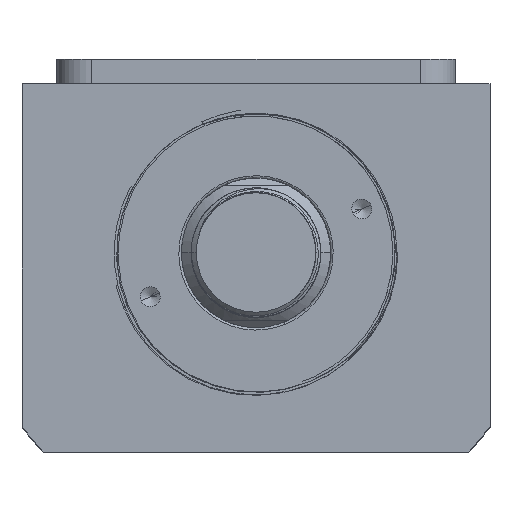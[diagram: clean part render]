
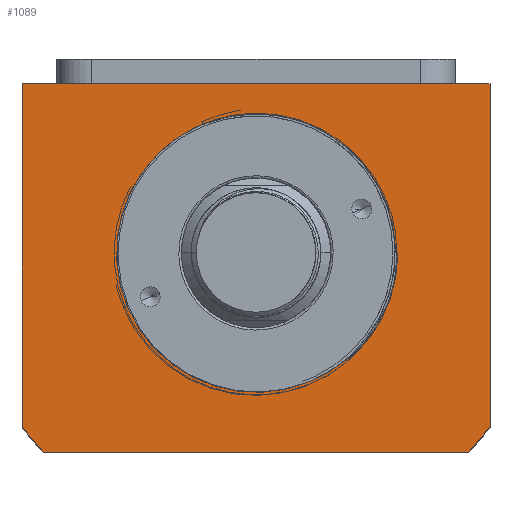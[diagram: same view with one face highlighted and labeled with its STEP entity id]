
A CAD part, top view. The second image highlights one B-rep face of the part: STEP entity #1089.
In plain terms, the highlighted planar face has unit normal (0, 0, 1).
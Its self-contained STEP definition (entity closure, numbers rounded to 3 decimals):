
#167 = CARTESIAN_POINT ( 'NONE',  ( 0., 0., 50. ) ) ;
#592 = DIRECTION ( 'NONE',  ( 1., 0., 0. ) ) ;
#817 = CARTESIAN_POINT ( 'NONE',  ( 18.667, -21.077, 50. ) ) ;
#869 = EDGE_CURVE ( 'NONE', #3445, #1991, #9956, .T. ) ;
#882 = CARTESIAN_POINT ( 'NONE',  ( 27.555, -6.99, 50. ) ) ;
#914 = AXIS2_PLACEMENT_3D ( 'NONE', #18875, #11363, #2368 ) ;
#1089 = ADVANCED_FACE ( 'NONE', ( #2450, #8316 ), #3809, .T. ) ;
#1202 = VERTEX_POINT ( 'NONE', #5716 ) ;
#1319 = ORIENTED_EDGE ( 'NONE', *, *, #12318, .T. ) ;
#1760 = CARTESIAN_POINT ( 'NONE',  ( -47., 34., 50. ) ) ;
#1906 = ORIENTED_EDGE ( 'NONE', *, *, #7147, .T. ) ;
#1991 = VERTEX_POINT ( 'NONE', #2170 ) ;
#2128 = ORIENTED_EDGE ( 'NONE', *, *, #10598, .T. ) ;
#2170 = CARTESIAN_POINT ( 'NONE',  ( 28., 0., 50. ) ) ;
#2238 = CARTESIAN_POINT ( 'NONE',  ( 11.542, -25.544, 50. ) ) ;
#2368 = DIRECTION ( 'NONE',  ( 1., 0., 0. ) ) ;
#2450 = FACE_BOUND ( 'NONE', #4644, .T. ) ;
#2899 = LINE ( 'NONE', #3871, #6878 ) ;
#3195 = ORIENTED_EDGE ( 'NONE', *, *, #16500, .T. ) ;
#3328 = VERTEX_POINT ( 'NONE', #1760 ) ;
#3445 = VERTEX_POINT ( 'NONE', #10665 ) ;
#3741 = CARTESIAN_POINT ( 'NONE',  ( 0., 0., 50. ) ) ;
#3743 = CARTESIAN_POINT ( 'NONE',  ( 16.467, -22.819, 50. ) ) ;
#3809 = PLANE ( 'NONE',  #914 ) ;
#3871 = CARTESIAN_POINT ( 'NONE',  ( -47., -34.832, 50. ) ) ;
#3877 = CARTESIAN_POINT ( 'NONE',  ( 28.323, -2.832, 50. ) ) ;
#4000 = VECTOR ( 'NONE', #592, 1000. ) ;
#4181 = CARTESIAN_POINT ( 'NONE',  ( 10.232, -26.064, 50. ) ) ;
#4203 = VERTEX_POINT ( 'NONE', #11423 ) ;
#4457 = AXIS2_PLACEMENT_3D ( 'NONE', #8239, #8164, #9691 ) ;
#4644 = EDGE_LOOP ( 'NONE', ( #8315, #14085, #2128 ) ) ;
#4757 = ORIENTED_EDGE ( 'NONE', *, *, #6388, .T. ) ;
#5396 = CARTESIAN_POINT ( 'NONE',  ( 27.887, -5.628, 50. ) ) ;
#5463 = CARTESIAN_POINT ( 'NONE',  ( 21.684, -18.094, 50. ) ) ;
#5716 = CARTESIAN_POINT ( 'NONE',  ( 47., -34.832, 50. ) ) ;
#5849 = DIRECTION ( 'NONE',  ( 0., -1., 0. ) ) ;
#6246 = VERTEX_POINT ( 'NONE', #12439 ) ;
#6282 = EDGE_CURVE ( 'NONE', #17596, #15430, #16033, .T. ) ;
#6388 = EDGE_CURVE ( 'NONE', #15430, #6246, #10794, .T. ) ;
#6693 = CARTESIAN_POINT ( 'NONE',  ( 26.163, -10.961, 50. ) ) ;
#6772 = ORIENTED_EDGE ( 'NONE', *, *, #6282, .T. ) ;
#6790 = VECTOR ( 'NONE', #12980, 1000. ) ;
#6878 = VECTOR ( 'NONE', #5849, 1000. ) ;
#6891 = CARTESIAN_POINT ( 'NONE',  ( 28.233, -3.538, 50. ) ) ;
#7147 = EDGE_CURVE ( 'NONE', #1202, #4203, #9366, .T. ) ;
#7408 = LINE ( 'NONE', #17063, #14953 ) ;
#7994 = DIRECTION ( 'NONE',  ( -1., 0., 0. ) ) ;
#8089 = DIRECTION ( 'NONE',  ( 0., 0., 1. ) ) ;
#8164 = DIRECTION ( 'NONE',  ( 0., 0., -1. ) ) ;
#8185 = CARTESIAN_POINT ( 'NONE',  ( 24.898, -13.504, 50. ) ) ;
#8239 = CARTESIAN_POINT ( 'NONE',  ( 0., 0., 50. ) ) ;
#8315 = ORIENTED_EDGE ( 'NONE', *, *, #869, .F. ) ;
#8316 = FACE_OUTER_BOUND ( 'NONE', #16143, .T. ) ;
#8764 = B_SPLINE_CURVE_WITH_KNOTS ( 'NONE', 3,
 ( #9647, #12654, #15742, #3877, #6891, #5396, #882, #17267, #6693, #8185, #18744, #9711, #5463, #12993, #17522, #817, #12928, #3743, #11227, #15944, #9833, #2238, #14394, #14260 ),
 .UNSPECIFIED., .F., .F.,
 ( 4, 2, 2, 2, 2, 2, 2, 2, 2, 2, 2, 4 ),
 ( 0., 0.002, 0.004, 0.009, 0.013, 0.017, 0.021, 0.023, 0.026, 0.03, 0.032, 0.034 ),
 .UNSPECIFIED. ) ;
#9366 = LINE ( 'NONE', #13190, #6790 ) ;
#9505 = ORIENTED_EDGE ( 'NONE', *, *, #17719, .T. ) ;
#9647 = CARTESIAN_POINT ( 'NONE',  ( 28.495, 0., 50. ) ) ;
#9691 = DIRECTION ( 'NONE',  ( 1., 0., 0. ) ) ;
#9711 = CARTESIAN_POINT ( 'NONE',  ( 22.571, -17.007, 50. ) ) ;
#9833 = CARTESIAN_POINT ( 'NONE',  ( 12.831, -24.945, 50. ) ) ;
#9956 = LINE ( 'NONE', #3741, #10891 ) ;
#10523 = AXIS2_PLACEMENT_3D ( 'NONE', #15644, #8089, #15371 ) ;
#10598 = EDGE_CURVE ( 'NONE', #14500, #1991, #12077, .T. ) ;
#10631 = DIRECTION ( 'NONE',  ( 0., 0., 1. ) ) ;
#10665 = CARTESIAN_POINT ( 'NONE',  ( 28.495, 0., 50. ) ) ;
#10794 = LINE ( 'NONE', #17095, #4000 ) ;
#10891 = VECTOR ( 'NONE', #17124, 1000. ) ;
#11227 = CARTESIAN_POINT ( 'NONE',  ( 15.3, -23.593, 50. ) ) ;
#11363 = DIRECTION ( 'NONE',  ( 0., 0., 1. ) ) ;
#11423 = CARTESIAN_POINT ( 'NONE',  ( 47., 34., 50. ) ) ;
#12077 = CIRCLE ( 'NONE', #4457, 28. ) ;
#12318 = EDGE_CURVE ( 'NONE', #3328, #17596, #2899, .T. ) ;
#12439 = CARTESIAN_POINT ( 'NONE',  ( 42.688, -40., 50. ) ) ;
#12654 = CARTESIAN_POINT ( 'NONE',  ( 28.485, -0.71, 50. ) ) ;
#12928 = CARTESIAN_POINT ( 'NONE',  ( 18.129, -21.529, 50. ) ) ;
#12980 = DIRECTION ( 'NONE',  ( 0., 1., 0. ) ) ;
#12993 = CARTESIAN_POINT ( 'NONE',  ( 20.224, -19.631, 50. ) ) ;
#13190 = CARTESIAN_POINT ( 'NONE',  ( 47., 34., 50. ) ) ;
#14085 = ORIENTED_EDGE ( 'NONE', *, *, #15225, .T. ) ;
#14260 = CARTESIAN_POINT ( 'NONE',  ( 10.232, -26.064, 50. ) ) ;
#14394 = CARTESIAN_POINT ( 'NONE',  ( 10.89, -25.816, 50. ) ) ;
#14500 = VERTEX_POINT ( 'NONE', #4181 ) ;
#14953 = VECTOR ( 'NONE', #7994, 1000. ) ;
#15225 = EDGE_CURVE ( 'NONE', #3445, #14500, #8764, .T. ) ;
#15371 = DIRECTION ( 'NONE',  ( 1., 0., 0. ) ) ;
#15430 = VERTEX_POINT ( 'NONE', #17723 ) ;
#15644 = CARTESIAN_POINT ( 'NONE',  ( 0., 0., 50. ) ) ;
#15742 = CARTESIAN_POINT ( 'NONE',  ( 28.449, -1.419, 50. ) ) ;
#15944 = CARTESIAN_POINT ( 'NONE',  ( 13.459, -24.624, 50. ) ) ;
#16033 = CIRCLE ( 'NONE', #10523, 58.5 ) ;
#16143 = EDGE_LOOP ( 'NONE', ( #3195, #1319, #6772, #4757, #9505, #1906 ) ) ;
#16416 = AXIS2_PLACEMENT_3D ( 'NONE', #167, #10631, #18115 ) ;
#16500 = EDGE_CURVE ( 'NONE', #4203, #3328, #7408, .T. ) ;
#17063 = CARTESIAN_POINT ( 'NONE',  ( -47., 34., 50. ) ) ;
#17095 = CARTESIAN_POINT ( 'NONE',  ( 42.688, -40., 50. ) ) ;
#17124 = DIRECTION ( 'NONE',  ( -1., 0., 0. ) ) ;
#17267 = CARTESIAN_POINT ( 'NONE',  ( 26.694, -9.657, 50. ) ) ;
#17522 = CARTESIAN_POINT ( 'NONE',  ( 19.714, -20.129, 50. ) ) ;
#17596 = VERTEX_POINT ( 'NONE', #19226 ) ;
#17719 = EDGE_CURVE ( 'NONE', #6246, #1202, #18777, .T. ) ;
#17723 = CARTESIAN_POINT ( 'NONE',  ( -42.688, -40., 50. ) ) ;
#18115 = DIRECTION ( 'NONE',  ( 1., 0., 0. ) ) ;
#18744 = CARTESIAN_POINT ( 'NONE',  ( 24.178, -14.712, 50. ) ) ;
#18777 = CIRCLE ( 'NONE', #16416, 58.5 ) ;
#18875 = CARTESIAN_POINT ( 'NONE',  ( 0., 0., 50. ) ) ;
#19226 = CARTESIAN_POINT ( 'NONE',  ( -47., -34.832, 50. ) ) ;
